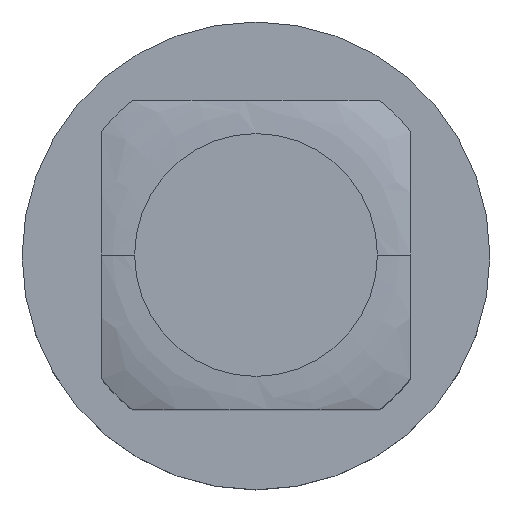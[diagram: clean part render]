
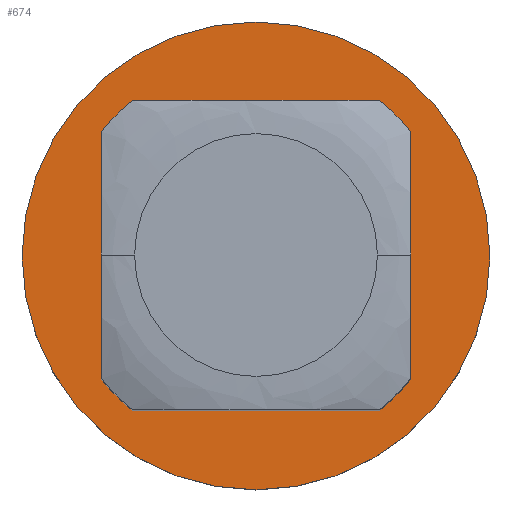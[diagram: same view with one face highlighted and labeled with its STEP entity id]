
A CAD part, top view. The second image highlights one B-rep face of the part: STEP entity #674.
In plain terms, the highlighted planar face has unit normal (0, 0, 1).
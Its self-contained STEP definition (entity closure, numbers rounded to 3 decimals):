
#3 = EDGE_CURVE ( 'NONE', #1194, #46, #1233, .T. ) ;
#33 = AXIS2_PLACEMENT_3D ( 'NONE', #164, #235, #856 ) ;
#36 = AXIS2_PLACEMENT_3D ( 'NONE', #855, #371, #1249 ) ;
#46 = VERTEX_POINT ( 'NONE', #185 ) ;
#62 = CIRCLE ( 'NONE', #1219, 2.032 ) ;
#88 = EDGE_CURVE ( 'NONE', #607, #144, #62, .T. ) ;
#91 = DIRECTION ( 'NONE',  ( 0., -1., 0. ) ) ;
#144 = VERTEX_POINT ( 'NONE', #1202 ) ;
#152 = CARTESIAN_POINT ( 'NONE',  ( 0., 0., -3.175 ) ) ;
#157 = ORIENTED_EDGE ( 'NONE', *, *, #820, .T. ) ;
#158 = CIRCLE ( 'NONE', #1048, 2.032 ) ;
#164 = CARTESIAN_POINT ( 'NONE',  ( 0., 0., -3.175 ) ) ;
#179 = ORIENTED_EDGE ( 'NONE', *, *, #600, .T. ) ;
#185 = CARTESIAN_POINT ( 'NONE',  ( -1.268, 1.588, -3.175 ) ) ;
#235 = DIRECTION ( 'NONE',  ( 0., 0., -1. ) ) ;
#279 = EDGE_LOOP ( 'NONE', ( #157, #334 ) ) ;
#309 = VECTOR ( 'NONE', #828, 1000. ) ;
#320 = DIRECTION ( 'NONE',  ( 0., 0., 1. ) ) ;
#334 = ORIENTED_EDGE ( 'NONE', *, *, #938, .T. ) ;
#345 = ORIENTED_EDGE ( 'NONE', *, *, #401, .T. ) ;
#350 = VECTOR ( 'NONE', #790, 1000. ) ;
#365 = EDGE_CURVE ( 'NONE', #607, #1251, #443, .T. ) ;
#371 = DIRECTION ( 'NONE',  ( 0., 0., 1. ) ) ;
#375 = VERTEX_POINT ( 'NONE', #548 ) ;
#401 = EDGE_CURVE ( 'NONE', #1194, #953, #527, .T. ) ;
#407 = AXIS2_PLACEMENT_3D ( 'NONE', #587, #1099, #800 ) ;
#426 = VERTEX_POINT ( 'NONE', #1033 ) ;
#427 = AXIS2_PLACEMENT_3D ( 'NONE', #432, #320, #1225 ) ;
#432 = CARTESIAN_POINT ( 'NONE',  ( 0., 0., -3.175 ) ) ;
#443 = LINE ( 'NONE', #1157, #309 ) ;
#475 = DIRECTION ( 'NONE',  ( 0., 0., -1. ) ) ;
#498 = CARTESIAN_POINT ( 'NONE',  ( 0., 0., -3.175 ) ) ;
#514 = ORIENTED_EDGE ( 'NONE', *, *, #771, .F. ) ;
#518 = VERTEX_POINT ( 'NONE', #827 ) ;
#527 = CIRCLE ( 'NONE', #33, 2.032 ) ;
#548 = CARTESIAN_POINT ( 'NONE',  ( -1.588, 1.268, -3.175 ) ) ;
#553 = CIRCLE ( 'NONE', #407, 2.4 ) ;
#569 = DIRECTION ( 'NONE',  ( 0., 0., -1. ) ) ;
#585 = LINE ( 'NONE', #904, #350 ) ;
#587 = CARTESIAN_POINT ( 'NONE',  ( 0., 0., -3.175 ) ) ;
#600 = EDGE_CURVE ( 'NONE', #375, #46, #902, .T. ) ;
#607 = VERTEX_POINT ( 'NONE', #746 ) ;
#616 = VERTEX_POINT ( 'NONE', #860 ) ;
#663 = CARTESIAN_POINT ( 'NONE',  ( -1.588, 1.588, -3.175 ) ) ;
#674 = ADVANCED_FACE ( 'NONE', ( #1168, #677 ), #758, .T. ) ;
#677 = FACE_OUTER_BOUND ( 'NONE', #279, .T. ) ;
#727 = ORIENTED_EDGE ( 'NONE', *, *, #1065, .T. ) ;
#736 = DIRECTION ( 'NONE',  ( 0., 0., -1. ) ) ;
#746 = CARTESIAN_POINT ( 'NONE',  ( -1.268, -1.588, -3.175 ) ) ;
#758 = PLANE ( 'NONE',  #36 ) ;
#771 = EDGE_CURVE ( 'NONE', #426, #953, #585, .T. ) ;
#782 = CARTESIAN_POINT ( 'NONE',  ( 1.268, 1.588, -3.175 ) ) ;
#790 = DIRECTION ( 'NONE',  ( 0., 1., 0. ) ) ;
#791 = LINE ( 'NONE', #1104, #866 ) ;
#800 = DIRECTION ( 'NONE',  ( 1., 0., 0. ) ) ;
#801 = CIRCLE ( 'NONE', #427, 2.4 ) ;
#820 = EDGE_CURVE ( 'NONE', #616, #518, #801, .T. ) ;
#823 = AXIS2_PLACEMENT_3D ( 'NONE', #1230, #736, #1135 ) ;
#827 = CARTESIAN_POINT ( 'NONE',  ( -2.4, 0., -3.175 ) ) ;
#828 = DIRECTION ( 'NONE',  ( 1., 0., 0. ) ) ;
#845 = ORIENTED_EDGE ( 'NONE', *, *, #88, .T. ) ;
#855 = CARTESIAN_POINT ( 'NONE',  ( -0.919, -0.919, -3.175 ) ) ;
#856 = DIRECTION ( 'NONE',  ( 1., 0., 0. ) ) ;
#860 = CARTESIAN_POINT ( 'NONE',  ( 2.4, 0., -3.175 ) ) ;
#866 = VECTOR ( 'NONE', #91, 1000. ) ;
#885 = CARTESIAN_POINT ( 'NONE',  ( 1.268, -1.588, -3.175 ) ) ;
#896 = EDGE_CURVE ( 'NONE', #375, #144, #791, .T. ) ;
#902 = CIRCLE ( 'NONE', #823, 2.032 ) ;
#904 = CARTESIAN_POINT ( 'NONE',  ( 1.588, -1.588, -3.175 ) ) ;
#938 = EDGE_CURVE ( 'NONE', #518, #616, #553, .T. ) ;
#953 = VERTEX_POINT ( 'NONE', #1203 ) ;
#971 = ORIENTED_EDGE ( 'NONE', *, *, #365, .F. ) ;
#984 = DIRECTION ( 'NONE',  ( 1., 0., 0. ) ) ;
#1033 = CARTESIAN_POINT ( 'NONE',  ( 1.588, -1.268, -3.175 ) ) ;
#1048 = AXIS2_PLACEMENT_3D ( 'NONE', #152, #475, #1148 ) ;
#1057 = VECTOR ( 'NONE', #1062, 1000. ) ;
#1062 = DIRECTION ( 'NONE',  ( -1., 0., 0. ) ) ;
#1065 = EDGE_CURVE ( 'NONE', #426, #1251, #158, .T. ) ;
#1099 = DIRECTION ( 'NONE',  ( 0., 0., 1. ) ) ;
#1104 = CARTESIAN_POINT ( 'NONE',  ( -1.588, -1.588, -3.175 ) ) ;
#1128 = ORIENTED_EDGE ( 'NONE', *, *, #3, .F. ) ;
#1135 = DIRECTION ( 'NONE',  ( 1., 0., 0. ) ) ;
#1140 = ORIENTED_EDGE ( 'NONE', *, *, #896, .F. ) ;
#1148 = DIRECTION ( 'NONE',  ( 1., 0., 0. ) ) ;
#1157 = CARTESIAN_POINT ( 'NONE',  ( -1.588, -1.588, -3.175 ) ) ;
#1168 = FACE_BOUND ( 'NONE', #1248, .T. ) ;
#1194 = VERTEX_POINT ( 'NONE', #782 ) ;
#1202 = CARTESIAN_POINT ( 'NONE',  ( -1.588, -1.268, -3.175 ) ) ;
#1203 = CARTESIAN_POINT ( 'NONE',  ( 1.588, 1.268, -3.175 ) ) ;
#1219 = AXIS2_PLACEMENT_3D ( 'NONE', #498, #569, #984 ) ;
#1225 = DIRECTION ( 'NONE',  ( 1., 0., 0. ) ) ;
#1230 = CARTESIAN_POINT ( 'NONE',  ( 0., 0., -3.175 ) ) ;
#1233 = LINE ( 'NONE', #663, #1057 ) ;
#1248 = EDGE_LOOP ( 'NONE', ( #514, #727, #971, #845, #1140, #179, #1128, #345 ) ) ;
#1249 = DIRECTION ( 'NONE',  ( 1., 0., 0. ) ) ;
#1251 = VERTEX_POINT ( 'NONE', #885 ) ;
